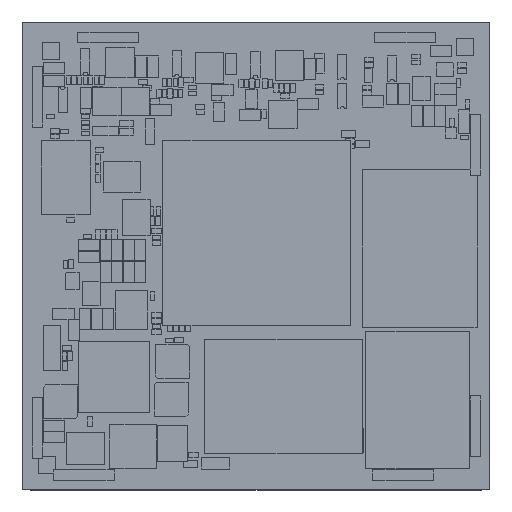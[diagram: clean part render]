
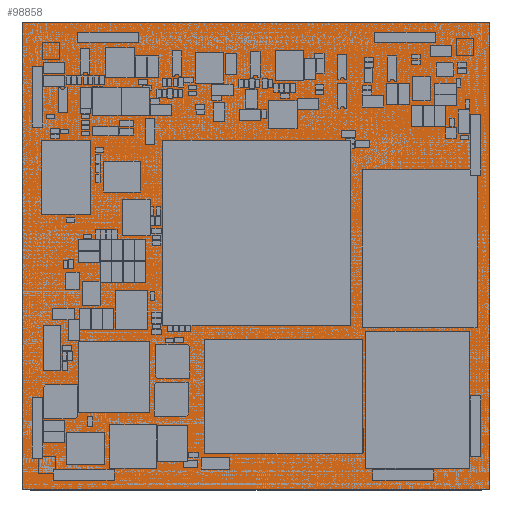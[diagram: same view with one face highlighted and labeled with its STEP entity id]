
A CAD part, top view. The second image highlights one B-rep face of the part: STEP entity #98858.
In plain terms, the highlighted planar face has unit normal (0, 0, 1).
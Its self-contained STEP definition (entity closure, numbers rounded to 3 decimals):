
#98544 = VERTEX_POINT('',#98545);
#98545 = CARTESIAN_POINT('',(-27.1,24.44,0.1));
#98552 = PLANE('',#98553);
#98553 = AXIS2_PLACEMENT_3D('',#98554,#98555,#98556);
#98554 = CARTESIAN_POINT('',(-27.1,24.44,0.));
#98555 = DIRECTION('',(1.,0.,0.));
#98556 = DIRECTION('',(0.,-1.,0.));
#98564 = PLANE('',#98565);
#98565 = AXIS2_PLACEMENT_3D('',#98566,#98567,#98568);
#98566 = CARTESIAN_POINT('',(27.91,24.44,0.));
#98567 = DIRECTION('',(0.,-1.,0.));
#98568 = DIRECTION('',(-1.,0.,0.));
#98576 = EDGE_CURVE('',#98544,#98577,#98579,.T.);
#98577 = VERTEX_POINT('',#98578);
#98578 = CARTESIAN_POINT('',(-27.1,-30.58,0.1));
#98579 = SURFACE_CURVE('',#98580,(#98584,#98591),.PCURVE_S1.);
#98580 = LINE('',#98581,#98582);
#98581 = CARTESIAN_POINT('',(-27.1,24.44,0.1));
#98582 = VECTOR('',#98583,1.);
#98583 = DIRECTION('',(0.,-1.,0.));
#98584 = PCURVE('',#98552,#98585);
#98585 = DEFINITIONAL_REPRESENTATION('',(#98586),#98590);
#98586 = LINE('',#98587,#98588);
#98587 = CARTESIAN_POINT('',(0.,-0.1));
#98588 = VECTOR('',#98589,1.);
#98589 = DIRECTION('',(1.,0.));
#98590 = ( GEOMETRIC_REPRESENTATION_CONTEXT(2) 
PARAMETRIC_REPRESENTATION_CONTEXT() REPRESENTATION_CONTEXT('2D SPACE',''
  ) );
#98591 = PCURVE('',#98592,#98597);
#98592 = PLANE('',#98593);
#98593 = AXIS2_PLACEMENT_3D('',#98594,#98595,#98596);
#98594 = CARTESIAN_POINT('',(0.405,-3.07,0.1));
#98595 = DIRECTION('',(0.,0.,1.));
#98596 = DIRECTION('',(1.,0.,0.));
#98597 = DEFINITIONAL_REPRESENTATION('',(#98598),#98602);
#98598 = LINE('',#98599,#98600);
#98599 = CARTESIAN_POINT('',(-27.505,27.51));
#98600 = VECTOR('',#98601,1.);
#98601 = DIRECTION('',(0.,-1.));
#98602 = ( GEOMETRIC_REPRESENTATION_CONTEXT(2) 
PARAMETRIC_REPRESENTATION_CONTEXT() REPRESENTATION_CONTEXT('2D SPACE',''
  ) );
#98620 = PLANE('',#98621);
#98621 = AXIS2_PLACEMENT_3D('',#98622,#98623,#98624);
#98622 = CARTESIAN_POINT('',(-27.1,-30.58,0.));
#98623 = DIRECTION('',(0.,1.,0.));
#98624 = DIRECTION('',(1.,0.,0.));
#98662 = EDGE_CURVE('',#98577,#98663,#98665,.T.);
#98663 = VERTEX_POINT('',#98664);
#98664 = CARTESIAN_POINT('',(27.91,-30.58,0.1));
#98665 = SURFACE_CURVE('',#98666,(#98670,#98677),.PCURVE_S1.);
#98666 = LINE('',#98667,#98668);
#98667 = CARTESIAN_POINT('',(-27.1,-30.58,0.1));
#98668 = VECTOR('',#98669,1.);
#98669 = DIRECTION('',(1.,0.,0.));
#98670 = PCURVE('',#98620,#98671);
#98671 = DEFINITIONAL_REPRESENTATION('',(#98672),#98676);
#98672 = LINE('',#98673,#98674);
#98673 = CARTESIAN_POINT('',(0.,-0.1));
#98674 = VECTOR('',#98675,1.);
#98675 = DIRECTION('',(1.,0.));
#98676 = ( GEOMETRIC_REPRESENTATION_CONTEXT(2) 
PARAMETRIC_REPRESENTATION_CONTEXT() REPRESENTATION_CONTEXT('2D SPACE',''
  ) );
#98677 = PCURVE('',#98592,#98678);
#98678 = DEFINITIONAL_REPRESENTATION('',(#98679),#98683);
#98679 = LINE('',#98680,#98681);
#98680 = CARTESIAN_POINT('',(-27.505,-27.51));
#98681 = VECTOR('',#98682,1.);
#98682 = DIRECTION('',(1.,0.));
#98683 = ( GEOMETRIC_REPRESENTATION_CONTEXT(2) 
PARAMETRIC_REPRESENTATION_CONTEXT() REPRESENTATION_CONTEXT('2D SPACE',''
  ) );
#98701 = PLANE('',#98702);
#98702 = AXIS2_PLACEMENT_3D('',#98703,#98704,#98705);
#98703 = CARTESIAN_POINT('',(27.91,-30.58,0.));
#98704 = DIRECTION('',(-1.,0.,0.));
#98705 = DIRECTION('',(0.,1.,0.));
#98738 = EDGE_CURVE('',#98663,#98739,#98741,.T.);
#98739 = VERTEX_POINT('',#98740);
#98740 = CARTESIAN_POINT('',(27.91,24.44,0.1));
#98741 = SURFACE_CURVE('',#98742,(#98746,#98753),.PCURVE_S1.);
#98742 = LINE('',#98743,#98744);
#98743 = CARTESIAN_POINT('',(27.91,-30.58,0.1));
#98744 = VECTOR('',#98745,1.);
#98745 = DIRECTION('',(0.,1.,0.));
#98746 = PCURVE('',#98701,#98747);
#98747 = DEFINITIONAL_REPRESENTATION('',(#98748),#98752);
#98748 = LINE('',#98749,#98750);
#98749 = CARTESIAN_POINT('',(0.,-0.1));
#98750 = VECTOR('',#98751,1.);
#98751 = DIRECTION('',(1.,0.));
#98752 = ( GEOMETRIC_REPRESENTATION_CONTEXT(2) 
PARAMETRIC_REPRESENTATION_CONTEXT() REPRESENTATION_CONTEXT('2D SPACE',''
  ) );
#98753 = PCURVE('',#98592,#98754);
#98754 = DEFINITIONAL_REPRESENTATION('',(#98755),#98759);
#98755 = LINE('',#98756,#98757);
#98756 = CARTESIAN_POINT('',(27.505,-27.51));
#98757 = VECTOR('',#98758,1.);
#98758 = DIRECTION('',(0.,1.));
#98759 = ( GEOMETRIC_REPRESENTATION_CONTEXT(2) 
PARAMETRIC_REPRESENTATION_CONTEXT() REPRESENTATION_CONTEXT('2D SPACE',''
  ) );
#98809 = EDGE_CURVE('',#98739,#98544,#98810,.T.);
#98810 = SURFACE_CURVE('',#98811,(#98815,#98822),.PCURVE_S1.);
#98811 = LINE('',#98812,#98813);
#98812 = CARTESIAN_POINT('',(27.91,24.44,0.1));
#98813 = VECTOR('',#98814,1.);
#98814 = DIRECTION('',(-1.,0.,0.));
#98815 = PCURVE('',#98564,#98816);
#98816 = DEFINITIONAL_REPRESENTATION('',(#98817),#98821);
#98817 = LINE('',#98818,#98819);
#98818 = CARTESIAN_POINT('',(0.,-0.1));
#98819 = VECTOR('',#98820,1.);
#98820 = DIRECTION('',(1.,0.));
#98821 = ( GEOMETRIC_REPRESENTATION_CONTEXT(2) 
PARAMETRIC_REPRESENTATION_CONTEXT() REPRESENTATION_CONTEXT('2D SPACE',''
  ) );
#98822 = PCURVE('',#98592,#98823);
#98823 = DEFINITIONAL_REPRESENTATION('',(#98824),#98828);
#98824 = LINE('',#98825,#98826);
#98825 = CARTESIAN_POINT('',(27.505,27.51));
#98826 = VECTOR('',#98827,1.);
#98827 = DIRECTION('',(-1.,0.));
#98828 = ( GEOMETRIC_REPRESENTATION_CONTEXT(2) 
PARAMETRIC_REPRESENTATION_CONTEXT() REPRESENTATION_CONTEXT('2D SPACE',''
  ) );
#98858 = ADVANCED_FACE('',(#98859),#98592,.T.);
#98859 = FACE_BOUND('',#98860,.T.);
#98860 = EDGE_LOOP('',(#98861,#98862,#98863,#98864));
#98861 = ORIENTED_EDGE('',*,*,#98576,.T.);
#98862 = ORIENTED_EDGE('',*,*,#98662,.T.);
#98863 = ORIENTED_EDGE('',*,*,#98738,.T.);
#98864 = ORIENTED_EDGE('',*,*,#98809,.T.);
